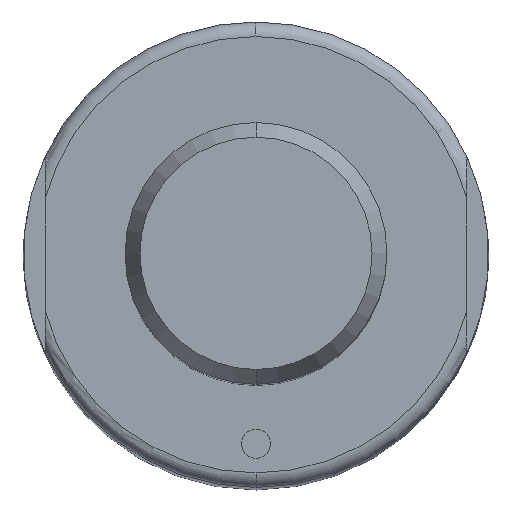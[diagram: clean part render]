
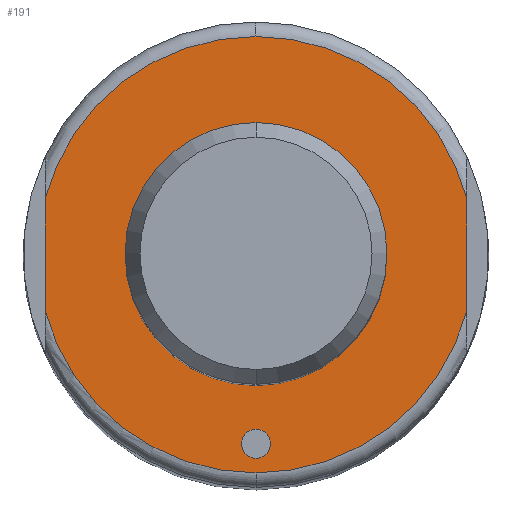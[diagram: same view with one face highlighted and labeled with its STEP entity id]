
A CAD part, top view. The second image highlights one B-rep face of the part: STEP entity #191.
In plain terms, the highlighted planar face has unit normal (0, 0, 1).
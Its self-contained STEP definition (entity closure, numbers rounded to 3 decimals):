
#115=FACE_BOUND('',#292,.T.);
#116=FACE_BOUND('',#293,.T.);
#117=FACE_BOUND('',#294,.T.);
#126=PLANE('',#862);
#191=ADVANCED_FACE('',(#115,#116,#117),#126,.T.);
#292=EDGE_LOOP('',(#515,#516,#517,#518,#519,#520));
#293=EDGE_LOOP('',(#521,#522));
#294=EDGE_LOOP('',(#523,#524));
#303=CIRCLE('',#774,9.);
#304=CIRCLE('',#776,9.);
#310=CIRCLE('',#786,1.);
#311=CIRCLE('',#788,1.);
#343=CIRCLE('',#846,15.);
#344=CIRCLE('',#848,15.);
#348=CIRCLE('',#854,15.);
#352=CIRCLE('',#860,15.);
#515=ORIENTED_EDGE('',*,*,#691,.F.);
#516=ORIENTED_EDGE('',*,*,#690,.F.);
#517=ORIENTED_EDGE('',*,*,#674,.F.);
#518=ORIENTED_EDGE('',*,*,#692,.F.);
#519=ORIENTED_EDGE('',*,*,#672,.F.);
#520=ORIENTED_EDGE('',*,*,#683,.F.);
#521=ORIENTED_EDGE('',*,*,#621,.F.);
#522=ORIENTED_EDGE('',*,*,#620,.F.);
#523=ORIENTED_EDGE('',*,*,#610,.T.);
#524=ORIENTED_EDGE('',*,*,#608,.T.);
#545=VERTEX_POINT('',#1117);
#546=VERTEX_POINT('',#1119);
#551=VERTEX_POINT('',#1138);
#554=VERTEX_POINT('',#1143);
#586=VERTEX_POINT('',#1259);
#588=VERTEX_POINT('',#1263);
#589=VERTEX_POINT('',#1274);
#591=VERTEX_POINT('',#1277);
#595=VERTEX_POINT('',#1298);
#600=VERTEX_POINT('',#1319);
#608=EDGE_CURVE('',#546,#545,#303,.T.);
#610=EDGE_CURVE('',#545,#546,#304,.T.);
#620=EDGE_CURVE('',#554,#551,#310,.T.);
#621=EDGE_CURVE('',#551,#554,#311,.T.);
#672=EDGE_CURVE('',#588,#586,#343,.T.);
#674=EDGE_CURVE('',#589,#591,#344,.T.);
#683=EDGE_CURVE('',#595,#588,#348,.T.);
#690=EDGE_CURVE('',#591,#600,#352,.T.);
#691=EDGE_CURVE('',#600,#595,#727,.T.);
#692=EDGE_CURVE('',#586,#589,#728,.T.);
#727=LINE('',#1322,#763);
#728=LINE('',#1323,#764);
#763=VECTOR('',#1089,1.);
#764=VECTOR('',#1090,1.);
#774=AXIS2_PLACEMENT_3D('',#1118,#884,#885);
#776=AXIS2_PLACEMENT_3D('',#1122,#889,#890);
#786=AXIS2_PLACEMENT_3D('',#1144,#913,#914);
#788=AXIS2_PLACEMENT_3D('',#1146,#917,#918);
#846=AXIS2_PLACEMENT_3D('',#1264,#1051,#1052);
#848=AXIS2_PLACEMENT_3D('',#1276,#1055,#1056);
#854=AXIS2_PLACEMENT_3D('',#1300,#1071,#1072);
#860=AXIS2_PLACEMENT_3D('',#1320,#1085,#1086);
#862=AXIS2_PLACEMENT_3D('',#1324,#1091,#1092);
#884=DIRECTION('',(0.,0.,-1.));
#885=DIRECTION('',(-1.,0.,0.));
#889=DIRECTION('',(0.,0.,-1.));
#890=DIRECTION('',(1.,0.,0.));
#913=DIRECTION('',(0.,0.,1.));
#914=DIRECTION('',(-1.,0.,0.));
#917=DIRECTION('',(0.,0.,1.));
#918=DIRECTION('',(1.,0.,0.));
#1051=DIRECTION('',(0.,0.,-1.));
#1052=DIRECTION('',(-1.,0.,0.));
#1055=DIRECTION('',(0.,0.,-1.));
#1056=DIRECTION('',(-1.,0.,0.));
#1071=DIRECTION('',(0.,0.,-1.));
#1072=DIRECTION('',(1.,0.,0.));
#1085=DIRECTION('',(0.,0.,-1.));
#1086=DIRECTION('',(1.,0.,0.));
#1089=DIRECTION('',(0.,1.,0.));
#1090=DIRECTION('',(0.,-1.,0.));
#1091=DIRECTION('',(0.,0.,1.));
#1092=DIRECTION('',(1.,0.,0.));
#1117=CARTESIAN_POINT('',(0.,-9.,103.));
#1118=CARTESIAN_POINT('',(0.,0.,103.));
#1119=CARTESIAN_POINT('',(0.,9.,103.));
#1122=CARTESIAN_POINT('',(0.,0.,103.));
#1138=CARTESIAN_POINT('',(0.,-12.,103.));
#1143=CARTESIAN_POINT('',(0.,-14.,103.));
#1144=CARTESIAN_POINT('',(0.,-13.,103.));
#1146=CARTESIAN_POINT('',(0.,-13.,103.));
#1259=CARTESIAN_POINT('',(14.5,3.841,103.));
#1263=CARTESIAN_POINT('',(0.,15.,103.));
#1264=CARTESIAN_POINT('',(0.,0.,103.));
#1274=CARTESIAN_POINT('',(14.5,-3.841,103.));
#1276=CARTESIAN_POINT('',(0.,0.,103.));
#1277=CARTESIAN_POINT('',(0.,-15.,103.));
#1298=CARTESIAN_POINT('',(-14.5,3.841,103.));
#1300=CARTESIAN_POINT('',(0.,0.,103.));
#1319=CARTESIAN_POINT('',(-14.5,-3.841,103.));
#1320=CARTESIAN_POINT('',(0.,0.,103.));
#1322=CARTESIAN_POINT('',(-14.5,0.,103.));
#1323=CARTESIAN_POINT('',(14.5,0.,103.));
#1324=CARTESIAN_POINT('',(0.,0.,103.));
